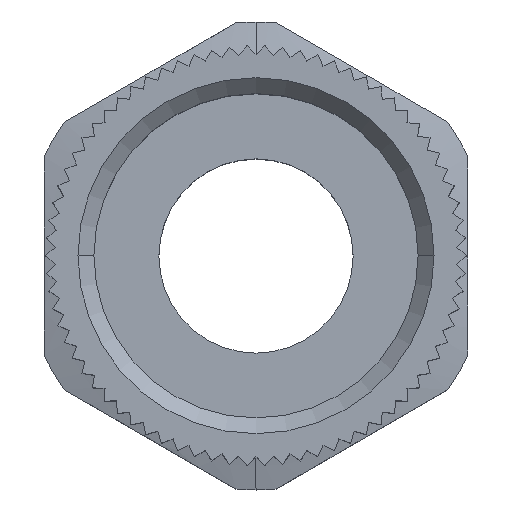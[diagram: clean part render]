
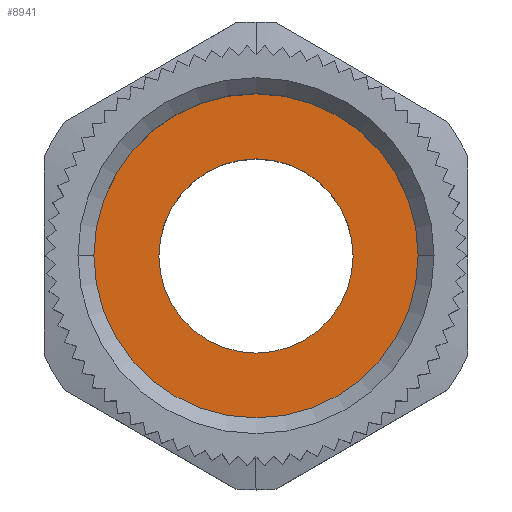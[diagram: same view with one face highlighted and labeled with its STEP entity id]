
A CAD part, top view. The second image highlights one B-rep face of the part: STEP entity #8941.
In plain terms, the highlighted planar face has unit normal (0, 0, 1).
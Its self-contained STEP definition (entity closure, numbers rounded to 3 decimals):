
#3918 = DIRECTION ( 'NONE',  ( 1., 0., 0. ) ) ;
#3919 = DIRECTION ( 'NONE',  ( 0., 0., 1. ) ) ;
#3920 = CARTESIAN_POINT ( 'NONE',  ( 0., 0., -10.5 ) ) ;
#3921 = AXIS2_PLACEMENT_3D ( 'NONE', #3920, #3919, #3918 ) ;
#3922 = CIRCLE ( 'NONE', #3921, 9.184 ) ;
#3945 = DIRECTION ( 'NONE',  ( 1., 0., 0. ) ) ;
#3946 = DIRECTION ( 'NONE',  ( 0., 0., 1. ) ) ;
#3947 = CARTESIAN_POINT ( 'NONE',  ( 0., 0., -10.5 ) ) ;
#3948 = AXIS2_PLACEMENT_3D ( 'NONE', #3947, #3946, #3945 ) ;
#3949 = CIRCLE ( 'NONE', #3948, 5.5 ) ;
#3951 = DIRECTION ( 'NONE',  ( 1., 0., 0. ) ) ;
#3952 = DIRECTION ( 'NONE',  ( 0., 0., 1. ) ) ;
#3953 = CARTESIAN_POINT ( 'NONE',  ( 0., 9.184, -10.5 ) ) ;
#3954 = AXIS2_PLACEMENT_3D ( 'NONE', #3953, #3952, #3951 ) ;
#3955 = PLANE ( 'NONE',  #3954 ) ;
#3956 = FACE_BOUND ( 'NONE', #8942, .T. ) ;
#3957 = FACE_OUTER_BOUND ( 'NONE', #8890, .T. ) ;
#4712 = CARTESIAN_POINT ( 'NONE',  ( 0., 0., -10.5 ) ) ;
#4742 = CARTESIAN_POINT ( 'NONE',  ( -5.5, 0., -10.5 ) ) ;
#4753 = CARTESIAN_POINT ( 'NONE',  ( 9.184, 0., -10.5 ) ) ;
#4754 = CARTESIAN_POINT ( 'NONE',  ( -9.184, 0., -10.5 ) ) ;
#4762 = DIRECTION ( 'NONE',  ( 1., 0., 0. ) ) ;
#4763 = DIRECTION ( 'NONE',  ( 0., 0., 1. ) ) ;
#4764 = AXIS2_PLACEMENT_3D ( 'NONE', #4712, #4763, #4762 ) ;
#4765 = CIRCLE ( 'NONE', #4764, 9.184 ) ;
#4770 = CARTESIAN_POINT ( 'NONE',  ( 5.5, 0., -10.5 ) ) ;
#4876 = DIRECTION ( 'NONE',  ( 1., 0., 0. ) ) ;
#4877 = DIRECTION ( 'NONE',  ( 0., 0., 1. ) ) ;
#4878 = AXIS2_PLACEMENT_3D ( 'NONE', #4885, #4877, #4876 ) ;
#4879 = CIRCLE ( 'NONE', #4878, 5.5 ) ;
#4885 = CARTESIAN_POINT ( 'NONE',  ( 0., 0., -10.5 ) ) ;
#8889 = ORIENTED_EDGE ( 'NONE', *, *, #8913, .T. ) ;
#8890 = EDGE_LOOP ( 'NONE', ( #8889, #8914 ) ) ;
#8913 = EDGE_CURVE ( 'NONE', #9363, #9362, #3922, .T. ) ;
#8914 = ORIENTED_EDGE ( 'NONE', *, *, #9357, .T. ) ;
#8941 = ADVANCED_FACE ( 'NONE', ( #3957, #3956 ), #3955, .T. ) ;
#8942 = EDGE_LOOP ( 'NONE', ( #8945, #8944 ) ) ;
#8944 = ORIENTED_EDGE ( 'NONE', *, *, #9437, .F. ) ;
#8945 = ORIENTED_EDGE ( 'NONE', *, *, #8946, .F. ) ;
#8946 = EDGE_CURVE ( 'NONE', #9387, #9371, #3949, .T. ) ;
#9357 = EDGE_CURVE ( 'NONE', #9362, #9363, #4765, .T. ) ;
#9362 = VERTEX_POINT ( 'NONE', #4754 ) ;
#9363 = VERTEX_POINT ( 'NONE', #4753 ) ;
#9371 = VERTEX_POINT ( 'NONE', #4742 ) ;
#9387 = VERTEX_POINT ( 'NONE', #4770 ) ;
#9437 = EDGE_CURVE ( 'NONE', #9371, #9387, #4879, .T. ) ;
